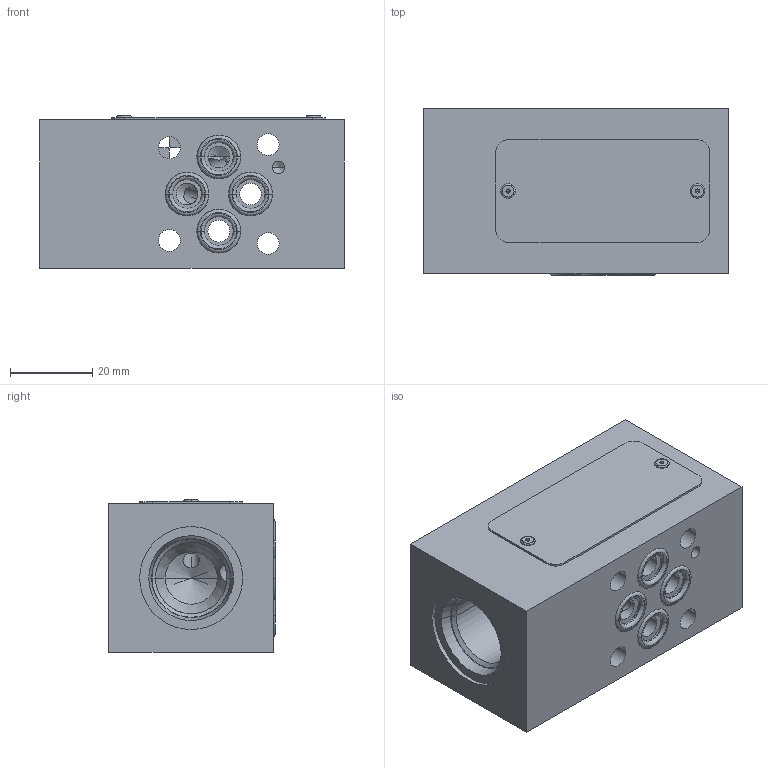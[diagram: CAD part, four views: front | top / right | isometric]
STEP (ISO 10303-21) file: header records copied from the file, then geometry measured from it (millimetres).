
FILE_DESCRIPTION((''),'2;1');
FILE_NAME('1000001890_ASM','2023-10-12T',('l.soukupova'),(''),'PRO/ENGINEER BY PARAMETRIC TECHNOLOGY CORPORATION, 2015440','PRO/ENGINEER BY PARAMETRIC TECHNOLOGY CORPORATION, 2015440','');
FILE_SCHEMA(('AUTOMOTIVE_DESIGN { 1 0 10303 214 1 1 1 1 }'));
Length unit declared in the file: millimetre
Products named in the file (8): 1000001853; RD_LABEL_25X52_159703; ORIA00750_292673_AF0; ORIA00750_292673_AF1; ORIA00750_292673_AF2; ORIA00750_292673_AF3; AF_1932_16485; 1000001890_ASM
Assembly tree (8 placements, depth 2):
  1000001890_ASM
    1000001853
    RD_LABEL_25X52_159703
    ORIA00750_292673_AF0
    ORIA00750_292673_AF1
    ORIA00750_292673_AF2
    ORIA00750_292673_AF3
    AF_1932_16485  x2
Bounding box: 74 x 40.4 x 37 mm (x, y, z)
Volume: 93166.9 mm3; surface area: 25189.9 mm2
Topology: 8 solids, 11 shells, 185 faces, 566 edges, 465 vertices
Faces by surface type: cylinder 88, torus 36, plane 34, cone 27
Entity records: 9280 total; most frequent: CARTESIAN_POINT 1806, DIRECTION 1199, ORIENTED_EDGE 792, AXIS2_PLACEMENT_3D 485, PRESENTATION_STYLE_ASSIGNMENT 420, EDGE_CURVE 402, STYLED_ITEM 350, CURVE_STYLE 308
